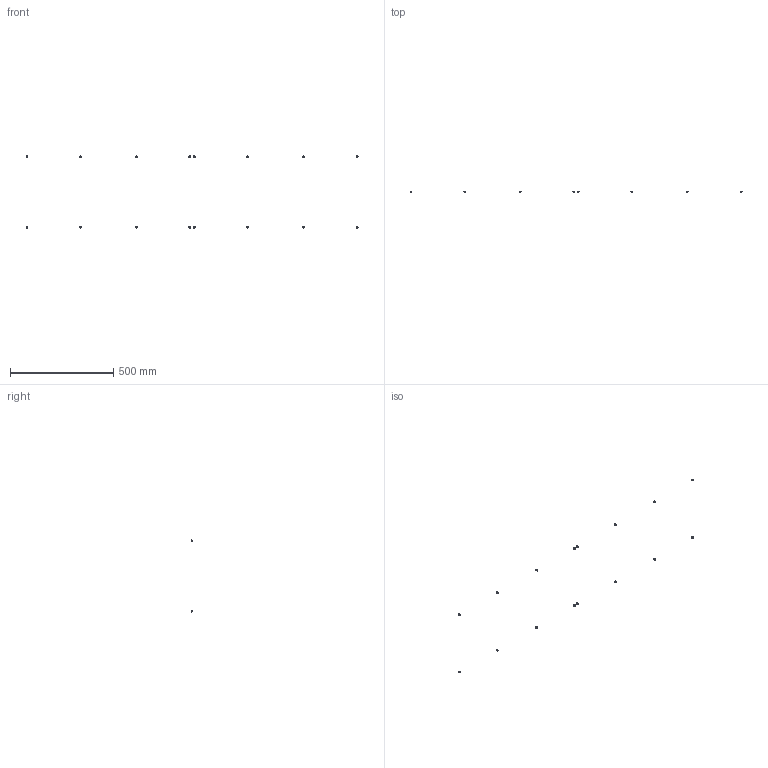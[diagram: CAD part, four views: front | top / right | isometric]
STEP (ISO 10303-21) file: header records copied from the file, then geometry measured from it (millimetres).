
FILE_DESCRIPTION(/* description */ (''),/* implementation_level */ '2;1');
FILE_NAME(/* name */ '14.frame-panels#14.4#BCB5-6',/* time_stamp */ '2014-12-01T20:20:16+01:00',/* author */ (''),/* organization */ (''),/* preprocessor_version */ 'ST-DEVELOPER v14',/* originating_system */ '',/* authorisation */ '');
FILE_SCHEMA (('AUTOMOTIVE_DESIGN'));
Length unit declared in the file: millimetre
Products named in the file (2): Document; screw ISO7380-like, button, M5x06
Assembly tree (8 placements, depth 2):
  Document
    screw ISO7380-like, button, M5x06  x8
Bounding box: 1609.49 x 8.75 x 349.5 mm (x, y, z)
Volume: 4122.2 mm3; surface area: 4620.6 mm2
Topology: 16 solids, 16 shells, 400 faces, 928 edges, 560 vertices
Faces by surface type: plane 240, bspline 160
Entity records: 13713 total; most frequent: CARTESIAN_POINT 6905, B_SPLINE_CURVE_WITH_KNOTS 1134, ORIENTED_EDGE 1008, PCURVE 1008, DEFINITIONAL_REPRESENTATION 1008, SURFACE_CURVE 504, EDGE_CURVE 504, VERTEX_POINT 315
